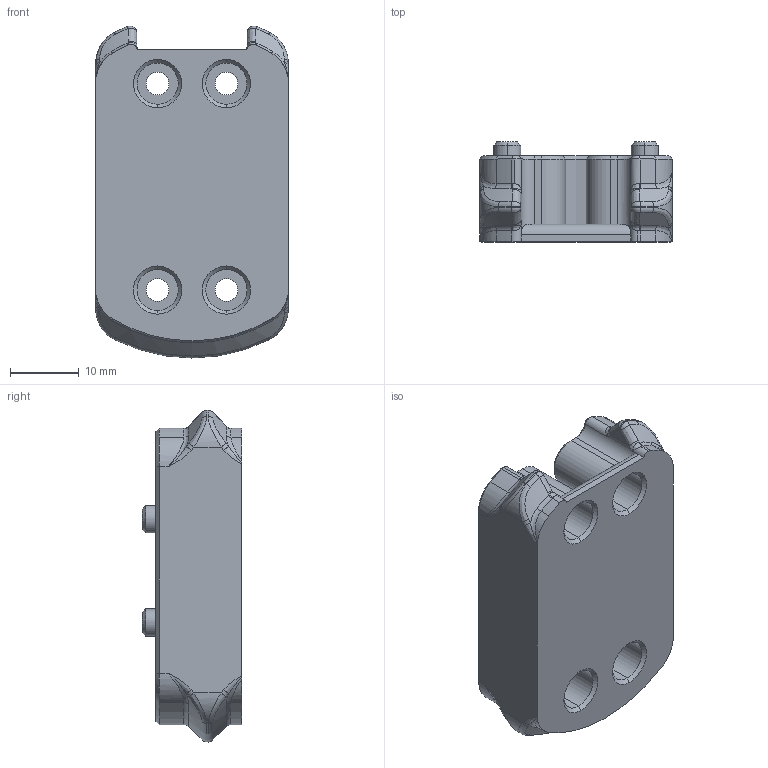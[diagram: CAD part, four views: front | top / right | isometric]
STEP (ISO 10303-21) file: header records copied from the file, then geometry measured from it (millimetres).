
FILE_DESCRIPTION (( 'STEP AP203' ), '1' );
FILE_NAME ('G1よ耦唳A&B藺傷楊擘輸.STEP', '2025-04-23T13:52:22', ( 'Opium' ), ( 'YC.TEC' ), 'SwSTEP 2.0', 'SolidWorks 2023', '' );
FILE_SCHEMA (( 'CONFIG_CONTROL_DESIGN' ));
Length unit declared in the file: millimetre
Products named in the file (1): G1旗舰版A&B末端法兰块
Bounding box: 28 x 14.5 x 48.25 mm (x, y, z)
Volume: 10308.9 mm3; surface area: 5339.3 mm2
Topology: 1 solids, 1 shells, 208 faces, 491 edges, 283 vertices
Faces by surface type: cylinder 64, cone 48, bspline 48, plane 30, torus 14, sphere 4
Entity records: 7433 total; most frequent: CARTESIAN_POINT 2891, ORIENTED_EDGE 966, DIRECTION 906, EDGE_CURVE 483, AXIS2_PLACEMENT_3D 376, VERTEX_POINT 283, EDGE_LOOP 222, CIRCLE 215
